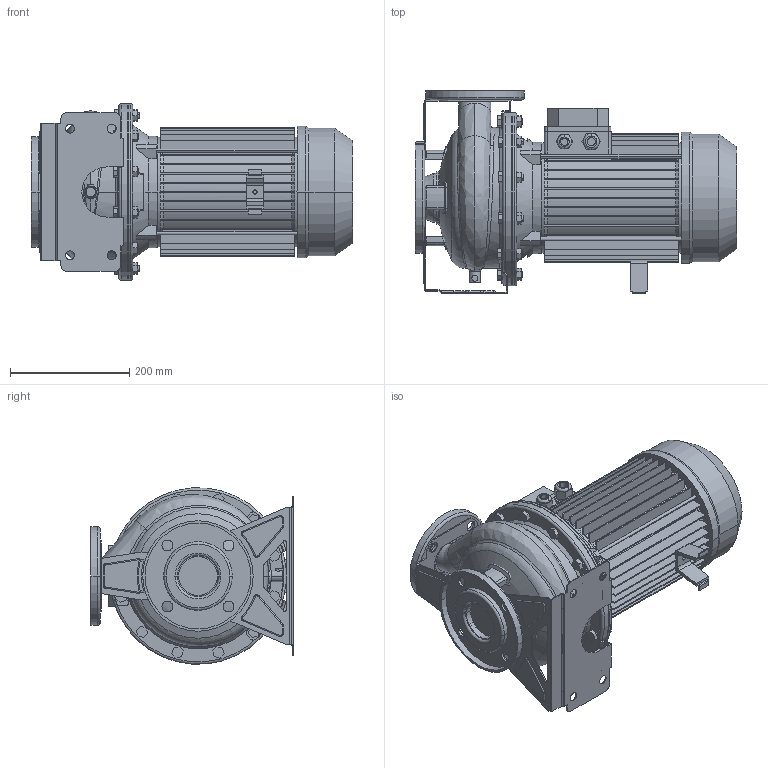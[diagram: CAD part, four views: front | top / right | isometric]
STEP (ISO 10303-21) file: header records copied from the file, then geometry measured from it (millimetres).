
FILE_DESCRIPTION((''),'2;1');
FILE_NAME('3M_50-160_5_5_IE2-IE3_ASM','2016-03-30T',('rosa'),('"Ebara Pumps Europe +39.444.706811"'),'PRO/ENGINEER BY PARAMETRIC TECHNOLOGY CORPORATION, 2012130','PRO/ENGINEER BY PARAMETRIC TECHNOLOGY CORPORATION, 2012130','');
FILE_SCHEMA(('AUTOMOTIVE_DESIGN { 1 0 10303 214 1 1 1 1 }'));
Length unit declared in the file: millimetre
Products named in the file (11): CORPO_50-160_AF0; ASP_50-160; FLANGIA_DIN_65; MAND_50-160; FLANGIA_DIN_50; BASE_3M_50-160; CORPO_SALDATO_50-160_ASM; SUPPORTO_3M_230_112; MEC_112X160_180_IE2; SOSTEGNO_72008; 3M_50-160_5_5_IE2-IE3_ASM
Assembly tree (10 placements, depth 3):
  3M_50-160_5_5_IE2-IE3_ASM
    CORPO_SALDATO_50-160_ASM
      CORPO_50-160_AF0
      ASP_50-160
      FLANGIA_DIN_65
      MAND_50-160
      FLANGIA_DIN_50
      BASE_3M_50-160
    SUPPORTO_3M_230_112
    MEC_112X160_180_IE2
    SOSTEGNO_72008
Bounding box: 539 x 340 x 295.13 mm (x, y, z)
Volume: 12702738.5 mm3; surface area: 1526599 mm2
Topology: 12 solids, 12 shells, 1150 faces, 2913 edges, 1864 vertices
Faces by surface type: plane 619, cylinder 334, cone 96, torus 62, bspline 33, sphere 6
Entity records: 49352 total; most frequent: CARTESIAN_POINT 10208, DIRECTION 5978, ORIENTED_EDGE 5826, PRESENTATION_STYLE_ASSIGNMENT 2925, STYLED_ITEM 2925, CURVE_STYLE 2913, EDGE_CURVE 2913, AXIS2_PLACEMENT_3D 2169
